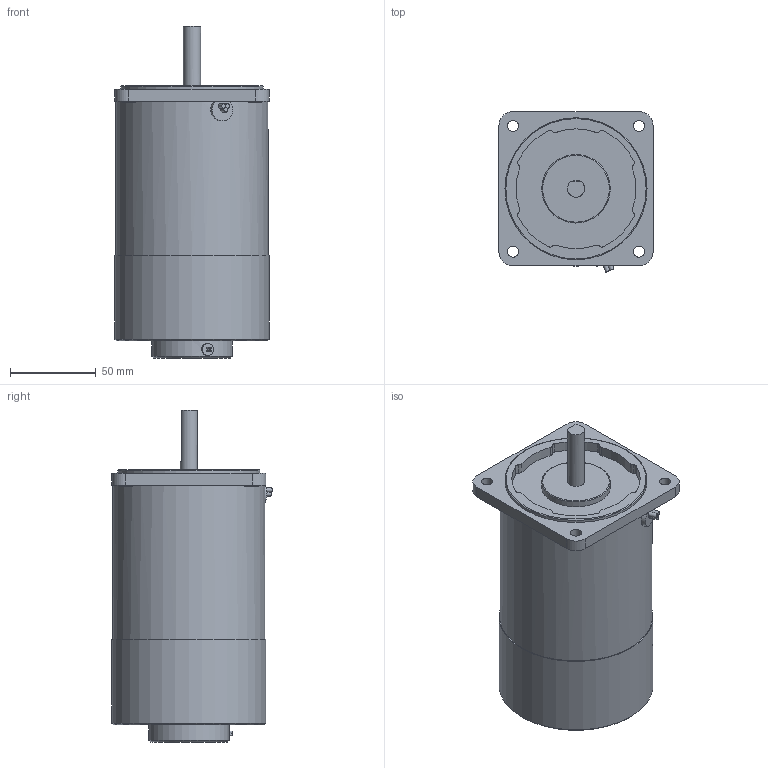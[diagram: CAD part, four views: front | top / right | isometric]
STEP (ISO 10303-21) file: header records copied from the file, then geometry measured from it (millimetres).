
FILE_DESCRIPTION((''),'2;1');
FILE_NAME('E:\2공장-도면\3D\표준형 3D(민규)\step file\D\K9RS40Nㅁ-D.stp','2014-11-17T11:04:29',('AHN'),(''),'Autodesk Inventor 2012','Autodesk Inventor 2012','');
FILE_SCHEMA(('CONFIG_CONTROL_DESIGN'));
Length unit declared in the file: millimetre
Products named in the file (1): K9RS40Nㅁ-D
Bounding box: 90 x 93.75 x 194 mm (x, y, z)
Volume: 944762.2 mm3; surface area: 63455.7 mm2
Topology: 1 solids, 1 shells, 83 faces, 188 edges, 117 vertices
Faces by surface type: cylinder 52, plane 27, cone 2, torus 2
Full cylindrical faces by diameter (mm): 1.4 x2, 6.5 x4, 7 x1, 8 x4, 10 x1, 40 x1, 47 x1, 83 x1, 89 x1, 90 x1
Entity records: 2318 total; most frequent: DIRECTION 437, CARTESIAN_POINT 423, ORIENTED_EDGE 328, AXIS2_PLACEMENT_3D 191, EDGE_CURVE 164, EDGE_LOOP 124, VERTEX_POINT 112, CIRCLE 107
